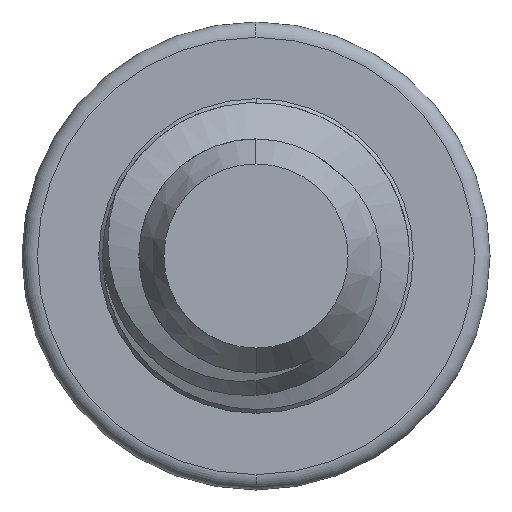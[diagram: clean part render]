
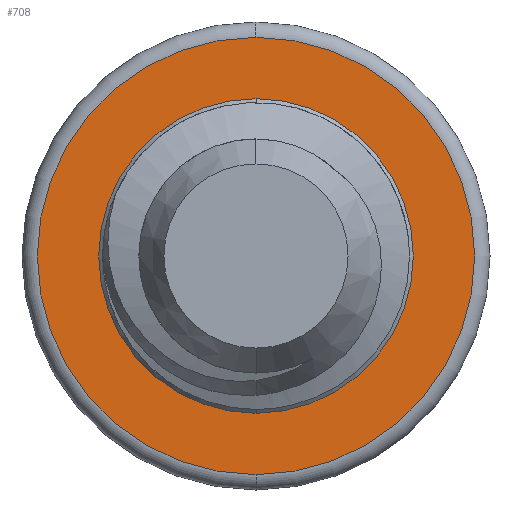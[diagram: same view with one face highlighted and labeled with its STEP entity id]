
A CAD part, left-side view. The second image highlights one B-rep face of the part: STEP entity #708.
In plain terms, the highlighted planar face has unit normal (-1, 0, 0).
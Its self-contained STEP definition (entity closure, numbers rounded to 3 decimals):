
#7 = VERTEX_POINT ( 'NONE', #1406 ) ;
#42 = CARTESIAN_POINT ( 'NONE',  ( 3., 0., -1.425 ) ) ;
#56 = CIRCLE ( 'NONE', #143, 1.025 ) ;
#143 = AXIS2_PLACEMENT_3D ( 'NONE', #194, #1388, #359 ) ;
#144 = AXIS2_PLACEMENT_3D ( 'NONE', #1475, #908, #735 ) ;
#174 = ORIENTED_EDGE ( 'NONE', *, *, #431, .F. ) ;
#194 = CARTESIAN_POINT ( 'NONE',  ( 3., 0., 0. ) ) ;
#251 = CIRCLE ( 'NONE', #377, 1.425 ) ;
#265 = ORIENTED_EDGE ( 'NONE', *, *, #2090, .F. ) ;
#277 = DIRECTION ( 'NONE',  ( 0., 0., -1. ) ) ;
#287 = EDGE_CURVE ( 'NONE', #1670, #1836, #1955, .T. ) ;
#359 = DIRECTION ( 'NONE',  ( 0., 0., -1. ) ) ;
#377 = AXIS2_PLACEMENT_3D ( 'NONE', #1062, #1412, #1592 ) ;
#394 = CARTESIAN_POINT ( 'NONE',  ( 3., 0., 0. ) ) ;
#431 = EDGE_CURVE ( 'NONE', #1463, #7, #1929, .T. ) ;
#569 = PLANE ( 'NONE',  #728 ) ;
#579 = ORIENTED_EDGE ( 'NONE', *, *, #287, .T. ) ;
#659 = EDGE_CURVE ( 'NONE', #1836, #1670, #251, .T. ) ;
#708 = ADVANCED_FACE ( 'NONE', ( #1104, #2003 ), #569, .F. ) ;
#728 = AXIS2_PLACEMENT_3D ( 'NONE', #394, #1852, #897 ) ;
#735 = DIRECTION ( 'NONE',  ( 0., 0., -1. ) ) ;
#808 = AXIS2_PLACEMENT_3D ( 'NONE', #2174, #1975, #277 ) ;
#897 = DIRECTION ( 'NONE',  ( 0., 0., -1. ) ) ;
#908 = DIRECTION ( 'NONE',  ( -1., 0., 0. ) ) ;
#1014 = CARTESIAN_POINT ( 'NONE',  ( 3., 0., -1.025 ) ) ;
#1062 = CARTESIAN_POINT ( 'NONE',  ( 3., 0., 0. ) ) ;
#1104 = FACE_OUTER_BOUND ( 'NONE', #2052, .T. ) ;
#1388 = DIRECTION ( 'NONE',  ( -1., 0., 0. ) ) ;
#1406 = CARTESIAN_POINT ( 'NONE',  ( 3., 0., 1.025 ) ) ;
#1412 = DIRECTION ( 'NONE',  ( -1., 0., 0. ) ) ;
#1463 = VERTEX_POINT ( 'NONE', #1014 ) ;
#1475 = CARTESIAN_POINT ( 'NONE',  ( 3., 0., 0. ) ) ;
#1592 = DIRECTION ( 'NONE',  ( 0., 0., -1. ) ) ;
#1670 = VERTEX_POINT ( 'NONE', #42 ) ;
#1836 = VERTEX_POINT ( 'NONE', #1947 ) ;
#1852 = DIRECTION ( 'NONE',  ( 1., 0., 0. ) ) ;
#1929 = CIRCLE ( 'NONE', #144, 1.025 ) ;
#1947 = CARTESIAN_POINT ( 'NONE',  ( 3., 0., 1.425 ) ) ;
#1953 = EDGE_LOOP ( 'NONE', ( #265, #174 ) ) ;
#1955 = CIRCLE ( 'NONE', #808, 1.425 ) ;
#1975 = DIRECTION ( 'NONE',  ( -1., 0., 0. ) ) ;
#2003 = FACE_BOUND ( 'NONE', #1953, .T. ) ;
#2052 = EDGE_LOOP ( 'NONE', ( #579, #2060 ) ) ;
#2060 = ORIENTED_EDGE ( 'NONE', *, *, #659, .T. ) ;
#2090 = EDGE_CURVE ( 'NONE', #7, #1463, #56, .T. ) ;
#2174 = CARTESIAN_POINT ( 'NONE',  ( 3., 0., 0. ) ) ;
